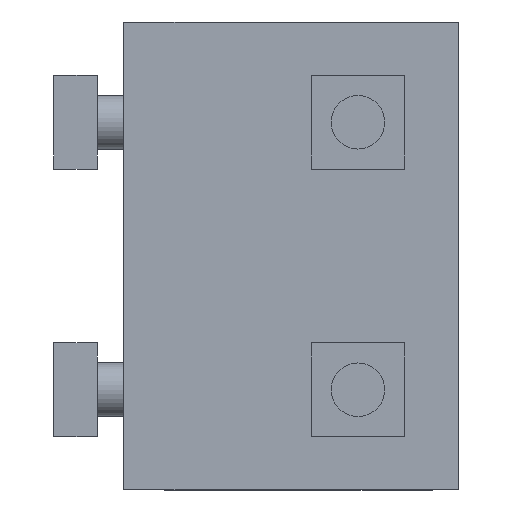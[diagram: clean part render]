
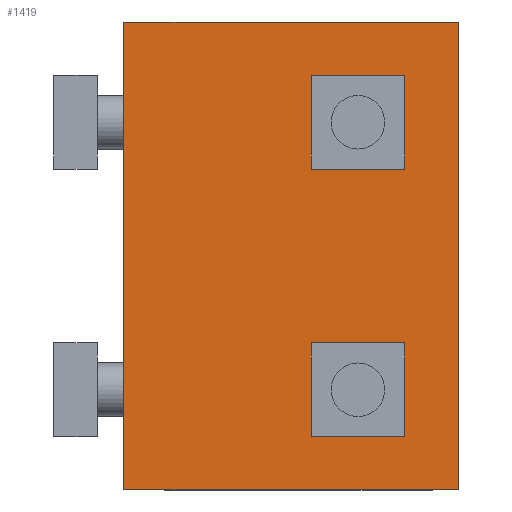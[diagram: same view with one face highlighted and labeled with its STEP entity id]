
A CAD part, front view. The second image highlights one B-rep face of the part: STEP entity #1419.
In plain terms, the highlighted planar face has unit normal (0, -1, 0).
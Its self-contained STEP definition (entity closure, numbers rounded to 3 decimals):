
#972=CARTESIAN_POINT('',(35.0,0.0,-15.5));
#973=VERTEX_POINT('',#972);
#974=CARTESIAN_POINT('',(35.0,0.0,-20.0));
#975=DIRECTION('',(0.0,1.0,0.0));
#976=DIRECTION('',(0.0,0.0,1.0));
#977=AXIS2_PLACEMENT_3D('',#974,#975,#976);
#978=CIRCLE('',#977,4.5);
#979=EDGE_CURVE('',#973,#973,#978,.T.);
#1098=CARTESIAN_POINT('',(35.0,0.0,24.5));
#1099=VERTEX_POINT('',#1098);
#1100=CARTESIAN_POINT('',(35.0,0.0,20.0));
#1101=DIRECTION('',(0.0,-1.0,0.0));
#1102=DIRECTION('',(0.0,0.0,1.0));
#1103=AXIS2_PLACEMENT_3D('',#1100,#1101,#1102);
#1104=CIRCLE('',#1103,4.5);
#1105=EDGE_CURVE('',#1099,#1099,#1104,.T.);
#1287=CARTESIAN_POINT('',(0.,0.0,35.));
#1288=VERTEX_POINT('',#1287);
#1295=CARTESIAN_POINT('',(50.,0.0,35.));
#1296=VERTEX_POINT('',#1295);
#1297=CARTESIAN_POINT('',(50.,0.0,35.));
#1298=DIRECTION('',(-1.0,0.0,0.0));
#1299=VECTOR('',#1298,50.);
#1300=LINE('',#1297,#1299);
#1301=EDGE_CURVE('',#1296,#1288,#1300,.T.);
#1383=CARTESIAN_POINT('',(-5.0,0.0,42.0));
#1384=DIRECTION('',(0.0,-1.0,0.0));
#1385=DIRECTION('',(0.0,0.0,-1.0));
#1386=AXIS2_PLACEMENT_3D('',#1383,#1384,#1385);
#1387=PLANE('',#1386);
#1388=CARTESIAN_POINT('',(0.0,0.,-35.));
#1389=VERTEX_POINT('',#1388);
#1390=CARTESIAN_POINT('',(50.,0.,-35.));
#1391=VERTEX_POINT('',#1390);
#1392=CARTESIAN_POINT('',(0.0,0.,-35.));
#1393=DIRECTION('',(1.0,0.0,0.0));
#1394=VECTOR('',#1393,50.);
#1395=LINE('',#1392,#1394);
#1396=EDGE_CURVE('',#1389,#1391,#1395,.T.);
#1397=ORIENTED_EDGE('',*,*,#1396,.T.);
#1398=CARTESIAN_POINT('',(50.,0.,-35.));
#1399=DIRECTION('',(0.0,0.0,1.0));
#1400=VECTOR('',#1399,70.);
#1401=LINE('',#1398,#1400);
#1402=EDGE_CURVE('',#1391,#1296,#1401,.T.);
#1403=ORIENTED_EDGE('',*,*,#1402,.T.);
#1404=ORIENTED_EDGE('',*,*,#1301,.T.);
#1405=CARTESIAN_POINT('',(0.,0.0,35.));
#1406=DIRECTION('',(0.0,0.0,-1.0));
#1407=VECTOR('',#1406,70.);
#1408=LINE('',#1405,#1407);
#1409=EDGE_CURVE('',#1288,#1389,#1408,.T.);
#1410=ORIENTED_EDGE('',*,*,#1409,.T.);
#1411=EDGE_LOOP('',(#1397,#1403,#1404,#1410));
#1412=FACE_OUTER_BOUND('',#1411,.T.);
#1413=ORIENTED_EDGE('',*,*,#979,.T.);
#1414=EDGE_LOOP('',(#1413));
#1415=FACE_BOUND('',#1414,.T.);
#1416=ORIENTED_EDGE('',*,*,#1105,.F.);
#1417=EDGE_LOOP('',(#1416));
#1418=FACE_BOUND('',#1417,.T.);
#1419=ADVANCED_FACE('',(#1412,#1415,#1418),#1387,.T.);
